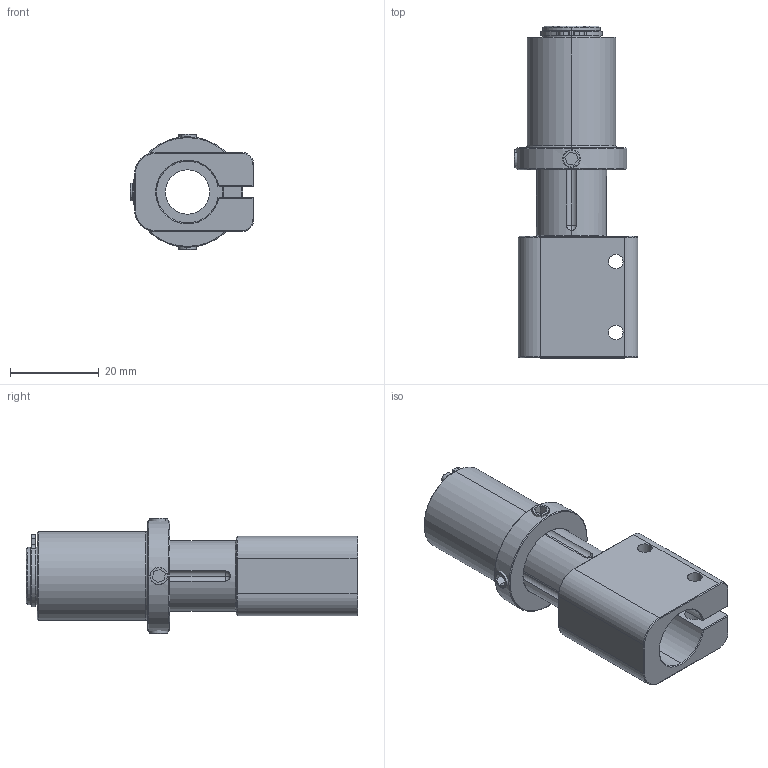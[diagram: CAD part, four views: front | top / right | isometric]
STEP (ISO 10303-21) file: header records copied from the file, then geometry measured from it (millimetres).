
FILE_DESCRIPTION (( 'STEP AP214' ), '1' );
FILE_NAME ('GSP20-14.STEP', '2019-11-12T08:36:18', ( '微软用户' ), ( '微软中国' ), 'SwSTEP 2.0', 'SolidWorks 2016', '' );
FILE_SCHEMA (( 'AUTOMOTIVE_DESIGN' ));
Length unit declared in the file: millimetre
Products named in the file (1): GSP20-14
Bounding box: 27.97 x 75 x 26 mm (x, y, z)
Volume: 14802.4 mm3; surface area: 13487.9 mm2
Topology: 9 solids, 9 shells, 204 faces, 496 edges, 309 vertices
Faces by surface type: plane 75, cylinder 67, cone 40, sphere 18, torus 2, bspline 2
Entity records: 8645 total; most frequent: CARTESIAN_POINT 1498, DIRECTION 1025, ORIENTED_EDGE 962, EDGE_CURVE 481, AXIS2_PLACEMENT_3D 383, VERTEX_POINT 300, LINE 259, VECTOR 259
